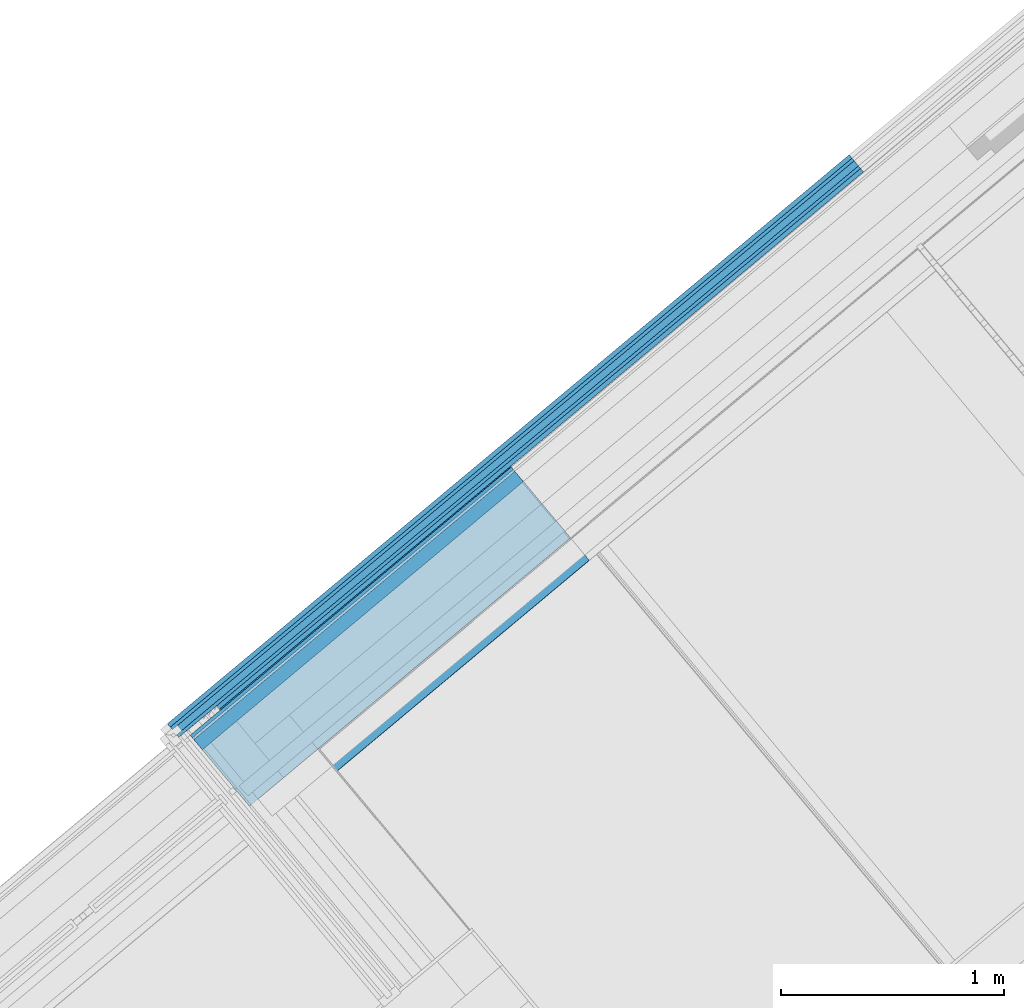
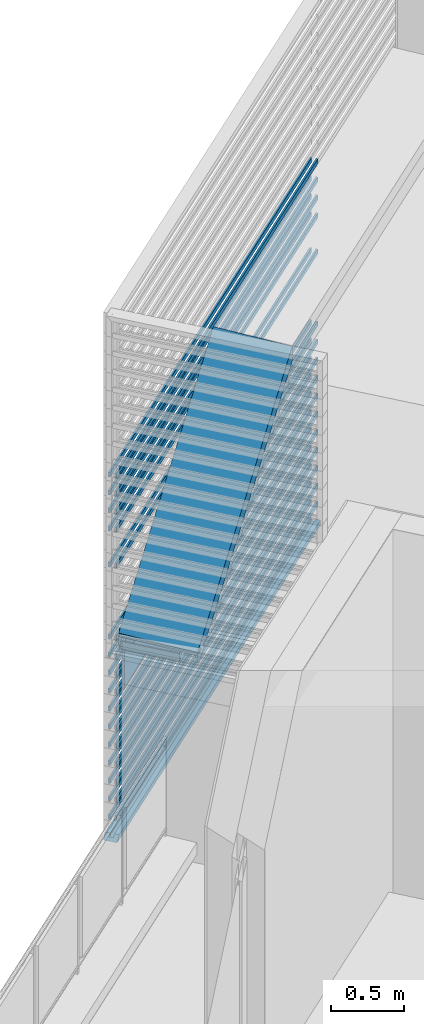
# One storey, part 23 of 50: 22 building element parts, 2 elements without a shape of their own.
"""IFC4 building model written with IfcOpenShell, lengths in metres."""

from ifc_helpers import new_model, entity, si_unit, converted_unit, derived_unit, direction, frame, origin_with_axes, place, context, subcontext, project, spatial, polygons, material, type_object, element, aggregate, save


model = new_model("IFC4")

# Units and contexts
model_context = context("Model", 3, precision=1e-05, world=origin_with_axes(), true_north=direction((0.0, 1.0)))
body_context = subcontext(model_context, "Body", "Model", "MODEL_VIEW")
ifc_project = project(units=[si_unit("LENGTHUNIT", "METRE"), si_unit("AREAUNIT", "SQUARE_METRE"), si_unit("VOLUMEUNIT", "CUBIC_METRE"), converted_unit("PLANEANGLEUNIT", "DEGREE", entity("IfcPlaneAngleMeasure", 0.0174532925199), si_unit("PLANEANGLEUNIT", "RADIAN"), dimensions=[0, 0, 0, 0, 0, 0, 0]), converted_unit("TIMEUNIT", "Year", entity("IfcTimeMeasure", 31556926.0), si_unit("TIMEUNIT", "SECOND"), dimensions=[0, 0, 1, 0, 0, 0, 0]), si_unit("MASSUNIT", "GRAM", prefix="KILO"), si_unit("THERMODYNAMICTEMPERATUREUNIT", "DEGREE_CELSIUS"), si_unit("LUMINOUSINTENSITYUNIT", "LUMEN"), si_unit("ENERGYUNIT", "JOULE", prefix="MEGA"), derived_unit("THERMALCONDUCTANCEUNIT", [(si_unit("POWERUNIT", "WATT"), 1), (si_unit("LENGTHUNIT", "METRE"), -1), (si_unit("THERMODYNAMICTEMPERATUREUNIT", "KELVIN"), -1)]), derived_unit("SPECIFICHEATCAPACITYUNIT", [(si_unit("ENERGYUNIT", "JOULE"), 1), (si_unit("MASSUNIT", "GRAM", prefix="KILO"), -1), (si_unit("THERMODYNAMICTEMPERATUREUNIT", "KELVIN"), -1)]), derived_unit("MASSDENSITYUNIT", [(si_unit("MASSUNIT", "GRAM", prefix="KILO"), 1), (si_unit("VOLUMEUNIT", "CUBIC_METRE"), -1)])], contexts=[model_context])

# Site, building, storey, space
site_placement = place(None, frame((-0.00153261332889, -0.00661245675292, 0.0), z_axis=(0.0, 0.0, 1.0), x_axis=(1.0, 0.0, 0.0)))
site = spatial("IfcSite", under=ifc_project, at=site_placement, Name="Gelände", CompositionType="ELEMENT")
building_placement = place(site_placement, origin_with_axes())
building = spatial("IfcBuilding", under=site, at=building_placement, Name="Gebäude", CompositionType="ELEMENT")
storey_placement = place(building_placement, frame((0.0, 0.0, 8.66), z_axis=(0.0, 0.0, 1.0), x_axis=(1.0, 0.0, 0.0)))
storey = spatial("IfcBuildingStorey", under=building, at=storey_placement, Name="DG2", CompositionType="ELEMENT", Elevation=8.66)
space_1_placement = place(storey_placement, frame((-4.06558748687, 22.1637970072, 0.22), z_axis=(0.0, 0.0, 1.0), x_axis=(-0.767365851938, -0.641209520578, 0.0)))
space_1 = spatial("IfcSpace", under=storey, at=space_1_placement, CompositionType="ELEMENT", PredefinedType="NOTDEFINED")

# Curtain wall, building element parts
curtain_wall_type = type_object("IfcCurtainWallType", Name="Fassadentyp", PredefinedType="NOTDEFINED")
curtain_wall_placement = place(space_1_placement, frame((-1.95298492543, -0.601365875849, 0.1), z_axis=(0.0, 0.0, 1.0), x_axis=(-0.767365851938, 0.641209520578, 0.0)))
curtain_wall = element("IfcCurtainWall", 1, at=curtain_wall_placement, inside=space_1, type_object=curtain_wall_type, Name="Fassade-001", PredefinedType="NOTDEFINED")
ifc_material_1 = material(Name="Blech")
building_element_part_1_placement = place(curtain_wall_placement, origin_with_axes())
building_element_part_1 = element("IfcBuildingElementPart", 2, at=building_element_part_1_placement, material=ifc_material_1, Name="Blech", PredefinedType="NOTDEFINED", context=body_context, shape_type="Tessellation", body=[
    polygons([(1.54752517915, 1.27174910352, 0.0), (1.54752517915, 1.27174910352, 0.02), (1.56994885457, 1.24487571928, 0.02), (1.56994885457, 1.24487571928, -0.02), (1.50588121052, 1.32165681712, -0.02), (1.50588121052, 1.32165681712, 0.02), (1.52830488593, 1.29478343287, 0.02), (1.52830488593, 1.29478343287, 0.0), (-1.52830488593, -1.29478343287, 0.0), (-1.51294866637, -1.28196990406, 0.02), (-1.49052499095, -1.3088432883, 0.02), (-1.52123743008, -1.33447034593, -0.02), (-1.58530507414, -1.25768924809, -0.02), (-1.554592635, -1.23206219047, 0.02), (-1.53216895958, -1.25893557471, 0.02), (-1.54752517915, -1.27174910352, 0.0)], [[[1, 2, 3, 4, 5, 6, 7, 8]], [[1, 9, 10, 2]], [[10, 11, 3, 2]], [[3, 11, 12, 4]], [[4, 12, 13, 5]], [[5, 13, 14, 6]], [[7, 6, 14, 15]], [[15, 16, 8, 7]], [[8, 16, 9, 1]], [[9, 16, 15, 14, 13, 12, 11, 10]]], closed=True),
])
building_element_part_2_placement = place(curtain_wall_placement, origin_with_axes())
building_element_part_2 = element("IfcBuildingElementPart", 3, at=building_element_part_2_placement, material=ifc_material_1, Name="Blech", PredefinedType="NOTDEFINED", context=body_context, shape_type="Tessellation", body=[
    polygons([(-1.51294866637, -1.28196990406, 0.15), (-1.51294866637, -1.28196990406, 0.17), (1.54752517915, 1.27174910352, 0.17), (1.54752517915, 1.27174910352, 0.15), (1.54752517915, 1.27174910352, 0.13), (-1.51294866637, -1.28196990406, 0.13), (-1.50333851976, -1.29348706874, 0.13), (-1.50333851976, -1.29348706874, 0.17), (1.55713532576, 1.26023193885, 0.17), (1.55713532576, 1.26023193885, 0.13)], [[[1, 2, 3, 4, 5, 6]], [[6, 7, 8, 2, 1]], [[3, 2, 8, 9]], [[4, 3, 9, 10, 5]], [[5, 10, 7, 6]], [[10, 9, 8, 7]]], closed=True),
    polygons([(1.52830488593, 1.29478343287, 0.13), (1.51869473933, 1.30630059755, 0.13), (1.51869473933, 1.30630059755, 0.17), (1.52830488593, 1.29478343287, 0.17), (1.52830488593, 1.29478343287, 0.15), (-1.53216895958, -1.25893557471, 0.13), (-1.54177910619, -1.24741841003, 0.13), (-1.54177910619, -1.24741841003, 0.17), (-1.53216895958, -1.25893557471, 0.17), (-1.53216895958, -1.25893557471, 0.15)], [[[1, 2, 3, 4, 5]], [[6, 7, 2, 1]], [[3, 2, 7, 8]], [[9, 4, 3, 8]], [[5, 4, 9, 10, 6, 1]], [[10, 9, 8, 7, 6]]], closed=True),
])
building_element_part_3_placement = place(curtain_wall_placement, origin_with_axes())
building_element_part_3 = element("IfcBuildingElementPart", 4, at=building_element_part_3_placement, material=ifc_material_1, Name="Blech", PredefinedType="NOTDEFINED", context=body_context, shape_type="Tessellation", body=[
    polygons([(-1.51294866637, -1.28196990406, 0.3), (-1.51294866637, -1.28196990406, 0.32), (1.54752517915, 1.27174910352, 0.32), (1.54752517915, 1.27174910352, 0.3), (1.54752517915, 1.27174910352, 0.28), (-1.51294866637, -1.28196990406, 0.28), (-1.50333851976, -1.29348706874, 0.28), (-1.50333851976, -1.29348706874, 0.32), (1.55713532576, 1.26023193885, 0.32), (1.55713532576, 1.26023193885, 0.28)], [[[1, 2, 3, 4, 5, 6]], [[6, 7, 8, 2, 1]], [[3, 2, 8, 9]], [[4, 3, 9, 10, 5]], [[5, 10, 7, 6]], [[10, 9, 8, 7]]], closed=True),
    polygons([(1.52830488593, 1.29478343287, 0.28), (1.51869473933, 1.30630059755, 0.28), (1.51869473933, 1.30630059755, 0.32), (1.52830488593, 1.29478343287, 0.32), (1.52830488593, 1.29478343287, 0.3), (-1.53216895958, -1.25893557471, 0.28), (-1.54177910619, -1.24741841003, 0.28), (-1.54177910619, -1.24741841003, 0.32), (-1.53216895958, -1.25893557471, 0.32), (-1.53216895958, -1.25893557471, 0.3)], [[[1, 2, 3, 4, 5]], [[6, 7, 2, 1]], [[3, 2, 7, 8]], [[9, 4, 3, 8]], [[5, 4, 9, 10, 6, 1]], [[10, 9, 8, 7, 6]]], closed=True),
])
building_element_part_4_placement = place(curtain_wall_placement, origin_with_axes())
building_element_part_4 = element("IfcBuildingElementPart", 5, at=building_element_part_4_placement, material=ifc_material_1, Name="Blech", PredefinedType="NOTDEFINED", context=body_context, shape_type="Tessellation", body=[
    polygons([(-1.51294866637, -1.28196990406, 0.45), (-1.51294866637, -1.28196990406, 0.47), (1.54752517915, 1.27174910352, 0.47), (1.54752517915, 1.27174910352, 0.45), (1.54752517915, 1.27174910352, 0.43), (-1.51294866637, -1.28196990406, 0.43), (-1.50333851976, -1.29348706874, 0.43), (-1.50333851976, -1.29348706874, 0.47), (1.55713532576, 1.26023193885, 0.47), (1.55713532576, 1.26023193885, 0.43)], [[[1, 2, 3, 4, 5, 6]], [[6, 7, 8, 2, 1]], [[3, 2, 8, 9]], [[4, 3, 9, 10, 5]], [[5, 10, 7, 6]], [[10, 9, 8, 7]]], closed=True),
    polygons([(1.52830488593, 1.29478343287, 0.43), (1.51869473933, 1.30630059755, 0.43), (1.51869473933, 1.30630059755, 0.47), (1.52830488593, 1.29478343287, 0.47), (1.52830488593, 1.29478343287, 0.45), (-1.53216895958, -1.25893557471, 0.43), (-1.54177910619, -1.24741841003, 0.43), (-1.54177910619, -1.24741841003, 0.47), (-1.53216895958, -1.25893557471, 0.47), (-1.53216895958, -1.25893557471, 0.45)], [[[1, 2, 3, 4, 5]], [[6, 7, 2, 1]], [[3, 2, 7, 8]], [[9, 4, 3, 8]], [[5, 4, 9, 10, 6, 1]], [[10, 9, 8, 7, 6]]], closed=True),
])
building_element_part_5_placement = place(curtain_wall_placement, origin_with_axes())
building_element_part_5 = element("IfcBuildingElementPart", 6, at=building_element_part_5_placement, material=ifc_material_1, Name="Blech", PredefinedType="NOTDEFINED", context=body_context, shape_type="Tessellation", body=[
    polygons([(-1.51294866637, -1.28196990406, 0.6), (-1.51294866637, -1.28196990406, 0.62), (1.54752517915, 1.27174910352, 0.62), (1.54752517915, 1.27174910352, 0.6), (1.54752517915, 1.27174910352, 0.58), (-1.51294866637, -1.28196990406, 0.58), (-1.50333851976, -1.29348706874, 0.58), (-1.50333851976, -1.29348706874, 0.62), (1.55713532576, 1.26023193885, 0.62), (1.55713532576, 1.26023193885, 0.58)], [[[1, 2, 3, 4, 5, 6]], [[6, 7, 8, 2, 1]], [[3, 2, 8, 9]], [[4, 3, 9, 10, 5]], [[5, 10, 7, 6]], [[10, 9, 8, 7]]], closed=True),
    polygons([(1.52830488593, 1.29478343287, 0.58), (1.51869473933, 1.30630059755, 0.58), (1.51869473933, 1.30630059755, 0.62), (1.52830488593, 1.29478343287, 0.62), (1.52830488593, 1.29478343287, 0.6), (-1.53216895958, -1.25893557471, 0.58), (-1.54177910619, -1.24741841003, 0.58), (-1.54177910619, -1.24741841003, 0.62), (-1.53216895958, -1.25893557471, 0.62), (-1.53216895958, -1.25893557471, 0.6)], [[[1, 2, 3, 4, 5]], [[6, 7, 2, 1]], [[3, 2, 7, 8]], [[9, 4, 3, 8]], [[5, 4, 9, 10, 6, 1]], [[10, 9, 8, 7, 6]]], closed=True),
])
building_element_part_6_placement = place(curtain_wall_placement, origin_with_axes())
building_element_part_6 = element("IfcBuildingElementPart", 7, at=building_element_part_6_placement, material=ifc_material_1, Name="Blech", PredefinedType="NOTDEFINED", context=body_context, shape_type="Tessellation", body=[
    polygons([(-1.51294866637, -1.28196990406, 3.0), (-1.51294866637, -1.28196990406, 3.02), (1.54752517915, 1.27174910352, 3.02), (1.54752517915, 1.27174910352, 3.0), (1.54752517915, 1.27174910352, 2.98), (-1.51294866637, -1.28196990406, 2.98), (-1.50333851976, -1.29348706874, 2.98), (-1.50333851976, -1.29348706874, 3.02), (1.55713532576, 1.26023193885, 3.02), (1.55713532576, 1.26023193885, 2.98)], [[[1, 2, 3, 4, 5, 6]], [[6, 7, 8, 2, 1]], [[3, 2, 8, 9]], [[4, 3, 9, 10, 5]], [[5, 10, 7, 6]], [[10, 9, 8, 7]]], closed=True),
    polygons([(1.52830488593, 1.29478343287, 2.98), (1.51869473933, 1.30630059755, 2.98), (1.51869473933, 1.30630059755, 3.02), (1.52830488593, 1.29478343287, 3.02), (1.52830488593, 1.29478343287, 3.0), (-1.53216895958, -1.25893557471, 2.98), (-1.54177910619, -1.24741841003, 2.98), (-1.54177910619, -1.24741841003, 3.02), (-1.53216895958, -1.25893557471, 3.02), (-1.53216895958, -1.25893557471, 3.0)], [[[1, 2, 3, 4, 5]], [[6, 7, 2, 1]], [[3, 2, 7, 8]], [[9, 4, 3, 8]], [[5, 4, 9, 10, 6, 1]], [[10, 9, 8, 7, 6]]], closed=True),
])
building_element_part_7_placement = place(curtain_wall_placement, origin_with_axes())
building_element_part_7 = element("IfcBuildingElementPart", 8, at=building_element_part_7_placement, material=ifc_material_1, Name="Blech", PredefinedType="NOTDEFINED", context=body_context, shape_type="Tessellation", body=[
    polygons([(-1.51294866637, -1.28196990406, 2.85), (-1.51294866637, -1.28196990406, 2.87), (1.54752517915, 1.27174910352, 2.87), (1.54752517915, 1.27174910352, 2.85), (1.54752517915, 1.27174910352, 2.83), (-1.51294866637, -1.28196990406, 2.83), (-1.50333851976, -1.29348706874, 2.83), (-1.50333851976, -1.29348706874, 2.87), (1.55713532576, 1.26023193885, 2.87), (1.55713532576, 1.26023193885, 2.83)], [[[1, 2, 3, 4, 5, 6]], [[6, 7, 8, 2, 1]], [[3, 2, 8, 9]], [[4, 3, 9, 10, 5]], [[5, 10, 7, 6]], [[10, 9, 8, 7]]], closed=True),
    polygons([(1.52830488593, 1.29478343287, 2.83), (1.51869473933, 1.30630059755, 2.83), (1.51869473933, 1.30630059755, 2.87), (1.52830488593, 1.29478343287, 2.87), (1.52830488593, 1.29478343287, 2.85), (-1.53216895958, -1.25893557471, 2.83), (-1.54177910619, -1.24741841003, 2.83), (-1.54177910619, -1.24741841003, 2.87), (-1.53216895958, -1.25893557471, 2.87), (-1.53216895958, -1.25893557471, 2.85)], [[[1, 2, 3, 4, 5]], [[6, 7, 2, 1]], [[3, 2, 7, 8]], [[9, 4, 3, 8]], [[5, 4, 9, 10, 6, 1]], [[10, 9, 8, 7, 6]]], closed=True),
])
building_element_part_8_placement = place(curtain_wall_placement, origin_with_axes())
building_element_part_8 = element("IfcBuildingElementPart", 9, at=building_element_part_8_placement, material=ifc_material_1, Name="Blech", PredefinedType="NOTDEFINED", context=body_context, shape_type="Tessellation", body=[
    polygons([(-1.51294866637, -1.28196990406, 0.75), (-1.51294866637, -1.28196990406, 0.77), (1.54752517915, 1.27174910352, 0.77), (1.54752517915, 1.27174910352, 0.75), (1.54752517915, 1.27174910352, 0.73), (-1.51294866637, -1.28196990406, 0.73), (-1.50333851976, -1.29348706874, 0.73), (-1.50333851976, -1.29348706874, 0.77), (1.55713532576, 1.26023193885, 0.77), (1.55713532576, 1.26023193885, 0.73)], [[[1, 2, 3, 4, 5, 6]], [[6, 7, 8, 2, 1]], [[3, 2, 8, 9]], [[4, 3, 9, 10, 5]], [[5, 10, 7, 6]], [[10, 9, 8, 7]]], closed=True),
    polygons([(1.52830488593, 1.29478343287, 0.73), (1.51869473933, 1.30630059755, 0.73), (1.51869473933, 1.30630059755, 0.77), (1.52830488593, 1.29478343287, 0.77), (1.52830488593, 1.29478343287, 0.75), (-1.53216895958, -1.25893557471, 0.73), (-1.54177910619, -1.24741841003, 0.73), (-1.54177910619, -1.24741841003, 0.77), (-1.53216895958, -1.25893557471, 0.77), (-1.53216895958, -1.25893557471, 0.75)], [[[1, 2, 3, 4, 5]], [[6, 7, 2, 1]], [[3, 2, 7, 8]], [[9, 4, 3, 8]], [[5, 4, 9, 10, 6, 1]], [[10, 9, 8, 7, 6]]], closed=True),
])
building_element_part_9_placement = place(curtain_wall_placement, origin_with_axes())
building_element_part_9 = element("IfcBuildingElementPart", 10, at=building_element_part_9_placement, material=ifc_material_1, Name="Blech", PredefinedType="NOTDEFINED", context=body_context, shape_type="Tessellation", body=[
    polygons([(-1.51294866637, -1.28196990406, 2.25), (-1.51294866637, -1.28196990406, 2.27), (1.54752517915, 1.27174910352, 2.27), (1.54752517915, 1.27174910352, 2.25), (1.54752517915, 1.27174910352, 2.23), (-1.51294866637, -1.28196990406, 2.23), (-1.50333851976, -1.29348706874, 2.23), (-1.50333851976, -1.29348706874, 2.27), (1.55713532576, 1.26023193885, 2.27), (1.55713532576, 1.26023193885, 2.23)], [[[1, 2, 3, 4, 5, 6]], [[6, 7, 8, 2, 1]], [[3, 2, 8, 9]], [[4, 3, 9, 10, 5]], [[5, 10, 7, 6]], [[10, 9, 8, 7]]], closed=True),
    polygons([(1.52830488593, 1.29478343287, 2.23), (1.51869473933, 1.30630059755, 2.23), (1.51869473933, 1.30630059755, 2.27), (1.52830488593, 1.29478343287, 2.27), (1.52830488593, 1.29478343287, 2.25), (-1.53216895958, -1.25893557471, 2.23), (-1.54177910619, -1.24741841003, 2.23), (-1.54177910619, -1.24741841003, 2.27), (-1.53216895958, -1.25893557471, 2.27), (-1.53216895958, -1.25893557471, 2.25)], [[[1, 2, 3, 4, 5]], [[6, 7, 2, 1]], [[3, 2, 7, 8]], [[9, 4, 3, 8]], [[5, 4, 9, 10, 6, 1]], [[10, 9, 8, 7, 6]]], closed=True),
])
building_element_part_10_placement = place(curtain_wall_placement, origin_with_axes())
building_element_part_10 = element("IfcBuildingElementPart", 11, at=building_element_part_10_placement, material=ifc_material_1, Name="Blech", PredefinedType="NOTDEFINED", context=body_context, shape_type="Tessellation", body=[
    polygons([(-1.51294866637, -1.28196990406, 0.9), (-1.51294866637, -1.28196990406, 0.92), (1.54752517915, 1.27174910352, 0.92), (1.54752517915, 1.27174910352, 0.9), (1.54752517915, 1.27174910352, 0.88), (-1.51294866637, -1.28196990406, 0.88), (-1.50333851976, -1.29348706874, 0.88), (-1.50333851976, -1.29348706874, 0.92), (1.55713532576, 1.26023193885, 0.92), (1.55713532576, 1.26023193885, 0.88)], [[[1, 2, 3, 4, 5, 6]], [[6, 7, 8, 2, 1]], [[3, 2, 8, 9]], [[4, 3, 9, 10, 5]], [[5, 10, 7, 6]], [[10, 9, 8, 7]]], closed=True),
    polygons([(1.52830488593, 1.29478343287, 0.88), (1.51869473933, 1.30630059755, 0.88), (1.51869473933, 1.30630059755, 0.92), (1.52830488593, 1.29478343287, 0.92), (1.52830488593, 1.29478343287, 0.9), (-1.53216895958, -1.25893557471, 0.88), (-1.54177910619, -1.24741841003, 0.88), (-1.54177910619, -1.24741841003, 0.92), (-1.53216895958, -1.25893557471, 0.92), (-1.53216895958, -1.25893557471, 0.9)], [[[1, 2, 3, 4, 5]], [[6, 7, 2, 1]], [[3, 2, 7, 8]], [[9, 4, 3, 8]], [[5, 4, 9, 10, 6, 1]], [[10, 9, 8, 7, 6]]], closed=True),
])
building_element_part_11_placement = place(curtain_wall_placement, origin_with_axes())
building_element_part_11 = element("IfcBuildingElementPart", 12, at=building_element_part_11_placement, material=ifc_material_1, Name="Blech", PredefinedType="NOTDEFINED", context=body_context, shape_type="Tessellation", body=[
    polygons([(-1.51294866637, -1.28196990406, 1.05), (-1.51294866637, -1.28196990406, 1.07), (1.54752517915, 1.27174910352, 1.07), (1.54752517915, 1.27174910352, 1.05), (1.54752517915, 1.27174910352, 1.03), (-1.51294866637, -1.28196990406, 1.03), (-1.50333851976, -1.29348706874, 1.03), (-1.50333851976, -1.29348706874, 1.07), (1.55713532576, 1.26023193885, 1.07), (1.55713532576, 1.26023193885, 1.03)], [[[1, 2, 3, 4, 5, 6]], [[6, 7, 8, 2, 1]], [[3, 2, 8, 9]], [[4, 3, 9, 10, 5]], [[5, 10, 7, 6]], [[10, 9, 8, 7]]], closed=True),
    polygons([(1.52830488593, 1.29478343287, 1.03), (1.51869473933, 1.30630059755, 1.03), (1.51869473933, 1.30630059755, 1.07), (1.52830488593, 1.29478343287, 1.07), (1.52830488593, 1.29478343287, 1.05), (-1.53216895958, -1.25893557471, 1.03), (-1.54177910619, -1.24741841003, 1.03), (-1.54177910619, -1.24741841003, 1.07), (-1.53216895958, -1.25893557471, 1.07), (-1.53216895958, -1.25893557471, 1.05)], [[[1, 2, 3, 4, 5]], [[6, 7, 2, 1]], [[3, 2, 7, 8]], [[9, 4, 3, 8]], [[5, 4, 9, 10, 6, 1]], [[10, 9, 8, 7, 6]]], closed=True),
])
building_element_part_12_placement = place(curtain_wall_placement, origin_with_axes())
building_element_part_12 = element("IfcBuildingElementPart", 13, at=building_element_part_12_placement, material=ifc_material_1, Name="Blech", PredefinedType="NOTDEFINED", context=body_context, shape_type="Tessellation", body=[
    polygons([(-1.51294866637, -1.28196990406, 1.2), (-1.51294866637, -1.28196990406, 1.22), (1.54752517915, 1.27174910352, 1.22), (1.54752517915, 1.27174910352, 1.2), (1.54752517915, 1.27174910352, 1.18), (-1.51294866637, -1.28196990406, 1.18), (-1.50333851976, -1.29348706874, 1.18), (-1.50333851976, -1.29348706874, 1.22), (1.55713532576, 1.26023193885, 1.22), (1.55713532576, 1.26023193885, 1.18)], [[[1, 2, 3, 4, 5, 6]], [[6, 7, 8, 2, 1]], [[3, 2, 8, 9]], [[4, 3, 9, 10, 5]], [[5, 10, 7, 6]], [[10, 9, 8, 7]]], closed=True),
    polygons([(1.52830488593, 1.29478343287, 1.18), (1.51869473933, 1.30630059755, 1.18), (1.51869473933, 1.30630059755, 1.22), (1.52830488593, 1.29478343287, 1.22), (1.52830488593, 1.29478343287, 1.2), (-1.53216895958, -1.25893557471, 1.18), (-1.54177910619, -1.24741841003, 1.18), (-1.54177910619, -1.24741841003, 1.22), (-1.53216895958, -1.25893557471, 1.22), (-1.53216895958, -1.25893557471, 1.2)], [[[1, 2, 3, 4, 5]], [[6, 7, 2, 1]], [[3, 2, 7, 8]], [[9, 4, 3, 8]], [[5, 4, 9, 10, 6, 1]], [[10, 9, 8, 7, 6]]], closed=True),
])
building_element_part_13_placement = place(curtain_wall_placement, origin_with_axes())
building_element_part_13 = element("IfcBuildingElementPart", 14, at=building_element_part_13_placement, material=ifc_material_1, Name="Blech", PredefinedType="NOTDEFINED", context=body_context, shape_type="Tessellation", body=[
    polygons([(-1.51294866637, -1.28196990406, 2.7), (-1.51294866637, -1.28196990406, 2.72), (1.54752517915, 1.27174910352, 2.72), (1.54752517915, 1.27174910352, 2.7), (1.54752517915, 1.27174910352, 2.68), (-1.51294866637, -1.28196990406, 2.68), (-1.50333851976, -1.29348706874, 2.68), (-1.50333851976, -1.29348706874, 2.72), (1.55713532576, 1.26023193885, 2.72), (1.55713532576, 1.26023193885, 2.68)], [[[1, 2, 3, 4, 5, 6]], [[6, 7, 8, 2, 1]], [[3, 2, 8, 9]], [[4, 3, 9, 10, 5]], [[5, 10, 7, 6]], [[10, 9, 8, 7]]], closed=True),
    polygons([(1.52830488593, 1.29478343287, 2.68), (1.51869473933, 1.30630059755, 2.68), (1.51869473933, 1.30630059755, 2.72), (1.52830488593, 1.29478343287, 2.72), (1.52830488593, 1.29478343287, 2.7), (-1.53216895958, -1.25893557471, 2.68), (-1.54177910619, -1.24741841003, 2.68), (-1.54177910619, -1.24741841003, 2.72), (-1.53216895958, -1.25893557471, 2.72), (-1.53216895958, -1.25893557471, 2.7)], [[[1, 2, 3, 4, 5]], [[6, 7, 2, 1]], [[3, 2, 7, 8]], [[9, 4, 3, 8]], [[5, 4, 9, 10, 6, 1]], [[10, 9, 8, 7, 6]]], closed=True),
])
building_element_part_14_placement = place(curtain_wall_placement, origin_with_axes())
building_element_part_14 = element("IfcBuildingElementPart", 15, at=building_element_part_14_placement, material=ifc_material_1, Name="Blech", PredefinedType="NOTDEFINED", context=body_context, shape_type="Tessellation", body=[
    polygons([(-1.51294866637, -1.28196990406, 1.35), (-1.51294866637, -1.28196990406, 1.37), (1.54752517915, 1.27174910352, 1.37), (1.54752517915, 1.27174910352, 1.35), (1.54752517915, 1.27174910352, 1.33), (-1.51294866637, -1.28196990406, 1.33), (-1.50333851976, -1.29348706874, 1.33), (-1.50333851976, -1.29348706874, 1.37), (1.55713532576, 1.26023193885, 1.37), (1.55713532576, 1.26023193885, 1.33)], [[[1, 2, 3, 4, 5, 6]], [[6, 7, 8, 2, 1]], [[3, 2, 8, 9]], [[4, 3, 9, 10, 5]], [[5, 10, 7, 6]], [[10, 9, 8, 7]]], closed=True),
    polygons([(1.52830488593, 1.29478343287, 1.33), (1.51869473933, 1.30630059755, 1.33), (1.51869473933, 1.30630059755, 1.37), (1.52830488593, 1.29478343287, 1.37), (1.52830488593, 1.29478343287, 1.35), (-1.53216895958, -1.25893557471, 1.33), (-1.54177910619, -1.24741841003, 1.33), (-1.54177910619, -1.24741841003, 1.37), (-1.53216895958, -1.25893557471, 1.37), (-1.53216895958, -1.25893557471, 1.35)], [[[1, 2, 3, 4, 5]], [[6, 7, 2, 1]], [[3, 2, 7, 8]], [[9, 4, 3, 8]], [[5, 4, 9, 10, 6, 1]], [[10, 9, 8, 7, 6]]], closed=True),
])
building_element_part_15_placement = place(curtain_wall_placement, origin_with_axes())
building_element_part_15 = element("IfcBuildingElementPart", 16, at=building_element_part_15_placement, material=ifc_material_1, Name="Blech", PredefinedType="NOTDEFINED", context=body_context, shape_type="Tessellation", body=[
    polygons([(-1.51294866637, -1.28196990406, 1.5), (-1.51294866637, -1.28196990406, 1.52), (1.54752517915, 1.27174910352, 1.52), (1.54752517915, 1.27174910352, 1.5), (1.54752517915, 1.27174910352, 1.48), (-1.51294866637, -1.28196990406, 1.48), (-1.50333851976, -1.29348706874, 1.48), (-1.50333851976, -1.29348706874, 1.52), (1.55713532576, 1.26023193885, 1.52), (1.55713532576, 1.26023193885, 1.48)], [[[1, 2, 3, 4, 5, 6]], [[6, 7, 8, 2, 1]], [[3, 2, 8, 9]], [[4, 3, 9, 10, 5]], [[5, 10, 7, 6]], [[10, 9, 8, 7]]], closed=True),
    polygons([(1.52830488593, 1.29478343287, 1.48), (1.51869473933, 1.30630059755, 1.48), (1.51869473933, 1.30630059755, 1.52), (1.52830488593, 1.29478343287, 1.52), (1.52830488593, 1.29478343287, 1.5), (-1.53216895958, -1.25893557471, 1.48), (-1.54177910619, -1.24741841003, 1.48), (-1.54177910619, -1.24741841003, 1.52), (-1.53216895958, -1.25893557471, 1.52), (-1.53216895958, -1.25893557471, 1.5)], [[[1, 2, 3, 4, 5]], [[6, 7, 2, 1]], [[3, 2, 7, 8]], [[9, 4, 3, 8]], [[5, 4, 9, 10, 6, 1]], [[10, 9, 8, 7, 6]]], closed=True),
])
building_element_part_16_placement = place(curtain_wall_placement, origin_with_axes())
building_element_part_16 = element("IfcBuildingElementPart", 17, at=building_element_part_16_placement, material=ifc_material_1, Name="Blech", PredefinedType="NOTDEFINED", context=body_context, shape_type="Tessellation", body=[
    polygons([(-1.51294866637, -1.28196990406, 1.65), (-1.51294866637, -1.28196990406, 1.67), (1.54752517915, 1.27174910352, 1.67), (1.54752517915, 1.27174910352, 1.65), (1.54752517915, 1.27174910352, 1.63), (-1.51294866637, -1.28196990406, 1.63), (-1.50333851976, -1.29348706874, 1.63), (-1.50333851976, -1.29348706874, 1.67), (1.55713532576, 1.26023193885, 1.67), (1.55713532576, 1.26023193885, 1.63)], [[[1, 2, 3, 4, 5, 6]], [[6, 7, 8, 2, 1]], [[3, 2, 8, 9]], [[4, 3, 9, 10, 5]], [[5, 10, 7, 6]], [[10, 9, 8, 7]]], closed=True),
    polygons([(1.52830488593, 1.29478343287, 1.63), (1.51869473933, 1.30630059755, 1.63), (1.51869473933, 1.30630059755, 1.67), (1.52830488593, 1.29478343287, 1.67), (1.52830488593, 1.29478343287, 1.65), (-1.53216895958, -1.25893557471, 1.63), (-1.54177910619, -1.24741841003, 1.63), (-1.54177910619, -1.24741841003, 1.67), (-1.53216895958, -1.25893557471, 1.67), (-1.53216895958, -1.25893557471, 1.65)], [[[1, 2, 3, 4, 5]], [[6, 7, 2, 1]], [[3, 2, 7, 8]], [[9, 4, 3, 8]], [[5, 4, 9, 10, 6, 1]], [[10, 9, 8, 7, 6]]], closed=True),
])
building_element_part_17_placement = place(curtain_wall_placement, origin_with_axes())
building_element_part_17 = element("IfcBuildingElementPart", 18, at=building_element_part_17_placement, material=ifc_material_1, Name="Blech", PredefinedType="NOTDEFINED", context=body_context, shape_type="Tessellation", body=[
    polygons([(-1.51294866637, -1.28196990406, 2.55), (-1.51294866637, -1.28196990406, 2.57), (1.54752517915, 1.27174910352, 2.57), (1.54752517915, 1.27174910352, 2.55), (1.54752517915, 1.27174910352, 2.53), (-1.51294866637, -1.28196990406, 2.53), (-1.50333851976, -1.29348706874, 2.53), (-1.50333851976, -1.29348706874, 2.57), (1.55713532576, 1.26023193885, 2.57), (1.55713532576, 1.26023193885, 2.53)], [[[1, 2, 3, 4, 5, 6]], [[6, 7, 8, 2, 1]], [[3, 2, 8, 9]], [[4, 3, 9, 10, 5]], [[5, 10, 7, 6]], [[10, 9, 8, 7]]], closed=True),
    polygons([(1.52830488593, 1.29478343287, 2.53), (1.51869473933, 1.30630059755, 2.53), (1.51869473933, 1.30630059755, 2.57), (1.52830488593, 1.29478343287, 2.57), (1.52830488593, 1.29478343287, 2.55), (-1.53216895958, -1.25893557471, 2.53), (-1.54177910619, -1.24741841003, 2.53), (-1.54177910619, -1.24741841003, 2.57), (-1.53216895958, -1.25893557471, 2.57), (-1.53216895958, -1.25893557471, 2.55)], [[[1, 2, 3, 4, 5]], [[6, 7, 2, 1]], [[3, 2, 7, 8]], [[9, 4, 3, 8]], [[5, 4, 9, 10, 6, 1]], [[10, 9, 8, 7, 6]]], closed=True),
])
aggregate(curtain_wall, [building_element_part_1, building_element_part_2, building_element_part_3, building_element_part_4, building_element_part_5, building_element_part_6, building_element_part_7, building_element_part_8, building_element_part_9, building_element_part_10, building_element_part_11, building_element_part_12, building_element_part_13, building_element_part_14, building_element_part_15, building_element_part_16, building_element_part_17])

# Space
space_2_placement = place(storey_placement, frame((0.280300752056, 22.6307267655, 0.22), z_axis=(0.0, 0.0, 1.0), x_axis=(-0.641244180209, 0.767336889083, 0.0)))
space_2 = spatial("IfcSpace", under=storey, at=space_2_placement, CompositionType="ELEMENT", PredefinedType="NOTDEFINED")

# Wall, building element parts
wall_type = type_object("IfcWallType", Name="Bauteil - Attika 574 x 1710", PredefinedType="NOTDEFINED")
wall_placement = place(space_2_placement, frame((2.76053433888, 3.61916135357, 1.02009396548), z_axis=(0.0, 0.0, 1.0), x_axis=(-0.999999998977, 4.52224951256e-05, 0.0)))
wall = element("IfcWall", 19, at=wall_placement, inside=space_2, type_object=wall_type, Name="Träger-001", PredefinedType="NOTDEFINED")
ifc_material_2 = material(Name="Vollholz")
building_element_part_18_placement = place(wall_placement, origin_with_axes())
building_element_part_18 = element("IfcBuildingElementPart", 20, at=building_element_part_18_placement, material=ifc_material_2, Name="Vollholz", PredefinedType="NOTDEFINED", context=body_context, shape_type="Tessellation", body=[
    polygons([(-0.190124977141, 1.87834618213, 1.99886592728), (-0.130124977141, 1.87834618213, 1.99886592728), (-0.130124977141, 0.0, 0.683633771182), (-0.190124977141, 0.0, 0.683633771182), (-0.189984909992, 1.87834618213, 2.03073576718), (-0.130124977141, 1.87834618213, 2.02818391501), (-0.130124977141, 0.0, 0.712951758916), (-0.189984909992, 0.0, 0.71550361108)], [[[1, 2, 3, 4]], [[5, 6, 2, 1]], [[2, 6, 7, 3]], [[3, 7, 8, 4]], [[5, 1, 4, 8]], [[6, 5, 8, 7]]], closed=True),
])
ifc_material_3 = material(Name="Stahl")
building_element_part_19_placement = place(wall_placement, origin_with_axes())
building_element_part_19 = element("IfcBuildingElementPart", 21, at=building_element_part_19_placement, material=ifc_material_3, Name="Stahl", PredefinedType="NOTDEFINED", context=body_context, shape_type="Tessellation", body=[
    polygons([(0.330698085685, 0.00989990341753, 0.702991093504), (0.330698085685, 0.00987504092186, 0.698357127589), (0.330698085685, 0.0698750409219, 0.698357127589), (0.330698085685, 0.0698750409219, 0.719423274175), (0.330698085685, 0.0316718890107, 0.718236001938), (0.330698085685, 1.87834618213, 2.0112912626), (0.330698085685, 1.87834618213, 1.91464039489), (0.330698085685, 0.176114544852, 0.722724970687), (0.330698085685, 0.121073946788, 0.721014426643), (0.330698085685, 0.120851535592, 0.698357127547), (0.330698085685, 0.141313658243, 0.698357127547), (0.330698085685, 0.0556247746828, 0.638357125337), (0.330698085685, 3.46206086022e-09, 0.638357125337), (0.330698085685, 0.0, 0.696059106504), (0.330698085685, 0.00997807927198, 0.71756180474), (0.332051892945, 0.00997807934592, 0.71756180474), (0.332051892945, 0.00990170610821, 0.703327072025), (0.332051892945, 0.00987504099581, 0.698357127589), (0.332051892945, 0.0698750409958, 0.698357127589), (0.332051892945, 0.0698750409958, 0.719423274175), (0.332051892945, 0.0311716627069, 0.718220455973), (0.330698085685, 0.0, 0.717739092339), (0.330698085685, 1.87834618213, 2.03297124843), (-0.231373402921, 1.87834618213, 1.94786172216), (-0.240542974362, 1.87834618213, 1.93666775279), (-0.241500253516, 1.87834618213, 1.93783638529), (-0.241500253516, 1.87834618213, 2.05825851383), (-0.241500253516, 1.87834618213, 2.05991228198), (0.332051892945, 1.87834618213, 2.03456517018), (0.332051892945, 1.87834618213, 2.01162597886), (0.332051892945, 1.87834618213, 1.91298770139), (0.331094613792, 1.87834618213, 1.91181907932), (0.321878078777, 1.87834618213, 1.92307039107), (0.32288233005, 1.87834618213, 1.92418168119), (-0.102258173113, 1.87834618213, 2.0521124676), (-0.240152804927, 1.87834618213, 2.05819892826), (-0.240146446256, 1.87834618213, 1.93948906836), (-0.232283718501, 1.87834618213, 1.9490876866), (0.32288233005, 0.161855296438, 0.722281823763), (0.321878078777, 0.163516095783, 0.722333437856), (0.331094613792, 0.180330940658, 0.722856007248), (0.332051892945, 0.178584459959, 0.722801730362), (0.332051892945, 0.121073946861, 0.721014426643), (0.332051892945, 0.120851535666, 0.698357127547), (0.332051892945, 0.143673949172, 0.698357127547), (0.331094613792, 0.145342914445, 0.698357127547), (0.321878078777, 0.129274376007, 0.698357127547), (0.32288233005, 0.127687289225, 0.698357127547), (0.32288233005, 0.041998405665, 0.638357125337), (0.321878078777, 0.0435854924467, 0.638357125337), (0.331094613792, 0.0596540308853, 0.638357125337), (0.332051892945, 0.0579850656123, 0.638357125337), (0.332051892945, 3.61473873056e-09, 0.638357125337), (0.332051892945, 0.0, 0.696393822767), (0.332051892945, 0.0, 0.719333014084), (-0.241500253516, 0.0, 0.74468012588), (-0.241500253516, 0.0, 0.743026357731), (-0.241500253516, 0.0, 0.622604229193), (-0.240542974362, 0.0, 0.621435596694), (-0.231373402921, 0.0, 0.632629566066), (-0.232283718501, 0.0, 0.633855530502), (-0.240146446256, 0.0, 0.62425691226), (-0.240152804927, 0.0, 0.742966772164), (-0.102258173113, 0.0, 0.736880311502)], [[[1, 2, 3, 4, 5, 6, 7, 8, 9, 10, 11, 12, 13, 14]], [[15, 16, 17, 18, 2, 1]], [[2, 18, 19, 3]], [[3, 19, 20, 4]], [[4, 20, 21, 16, 15, 5]], [[5, 15, 1, 14, 22, 23, 6]], [[24, 25, 26, 27, 28, 29, 30, 31, 32, 33, 34, 7, 6, 23, 35, 36, 37, 38]], [[34, 39, 8, 7]], [[39, 40, 41, 42, 43, 9, 8]], [[9, 43, 44, 10]], [[44, 45, 46, 47, 48, 11, 10]], [[12, 11, 48, 49]], [[49, 50, 51, 52, 53, 13, 12]], [[14, 13, 53, 54, 55, 56, 57, 58, 59, 60, 61, 62, 63, 64, 22]], [[17, 16, 21, 30, 29, 55, 54]], [[19, 18, 17, 54, 53, 52, 45, 44, 43, 42, 31, 30, 21, 20]], [[64, 35, 23, 22]], [[59, 25, 24, 60]], [[58, 26, 25, 59]], [[57, 27, 26, 58]], [[56, 28, 27, 57]], [[55, 29, 28, 56]], [[31, 42, 41, 32]], [[32, 41, 40, 33]], [[33, 40, 39, 34]], [[63, 36, 35, 64]], [[62, 37, 36, 63]], [[61, 38, 37, 62]], [[60, 24, 38, 61]], [[51, 46, 45, 52]], [[50, 47, 46, 51]], [[49, 48, 47, 50]]], closed=True),
])
ifc_material_4 = material(Name="Zementputz")
building_element_part_20_placement = place(wall_placement, origin_with_axes())
building_element_part_20 = element("IfcBuildingElementPart", 22, at=building_element_part_20_placement, material=ifc_material_4, Name="Zementputz", PredefinedType="NOTDEFINED", context=body_context, shape_type="Tessellation", body=[
    polygons([(-0.199999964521, 0.0, 0.288294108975), (-0.199999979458, 1.87834618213, 0.382515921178), (-0.19999996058, 1.87834618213, 1.9256194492), (-0.19999996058, 0.0, 0.610387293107), (-0.214999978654, 0.0, 0.288294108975), (-0.214999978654, 1.87834618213, 0.382515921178), (-0.214999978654, 1.87834618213, 1.9256194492), (-0.214999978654, 0.0, 0.610387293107)], [[[1, 2, 3, 4]], [[5, 6, 2, 1]], [[2, 6, 7, 3]], [[4, 3, 7, 8]], [[1, 4, 8, 5]], [[8, 7, 6, 5]]], closed=True),
])
ifc_material_5 = material(Name="Brettschichtholz")
building_element_part_21_placement = place(wall_placement, origin_with_axes())
building_element_part_21 = element("IfcBuildingElementPart", 23, at=building_element_part_21_placement, material=ifc_material_5, Name="Brettschichtholz", PredefinedType="NOTDEFINED", context=body_context, shape_type="Tessellation", body=[
    polygons([(-0.214999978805, 0.0, 0.683633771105), (-0.214999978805, 1.87834618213, 1.9988659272), (-0.214999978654, 1.87834618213, 1.9256194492), (-0.214999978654, 0.0, 0.610387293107), (0.2, 0.0, 0.683633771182), (0.2, 1.87834618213, 1.99886592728), (0.2, 1.87834618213, 1.92561945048), (0.2, 0.0, 0.610387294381)], [[[1, 2, 3, 4]], [[5, 6, 2, 1]], [[2, 6, 7, 3]], [[4, 3, 7, 8]], [[1, 4, 8, 5]], [[8, 7, 6, 5]]], closed=True),
])
ifc_material_6 = material(Name="Holzwerkstoff")
building_element_part_22_placement = place(wall_placement, origin_with_axes())
building_element_part_22 = element("IfcBuildingElementPart", 24, at=building_element_part_22_placement, material=ifc_material_6, Name="Holzwerkstoff", PredefinedType="NOTDEFINED", context=body_context, shape_type="Tessellation", body=[
    polygons([(0.33, 0.0, 0.693336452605), (0.33, 0.00988524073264, 0.700258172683), (0.330493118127, 0.00997807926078, 0.71756180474), (0.33, 0.0357408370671, 0.718362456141), (0.33, 1.87834618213, 2.0085686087), (0.330698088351, 1.87834618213, 2.03297266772), (0.330698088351, 0.0, 0.717740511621), (-0.0743744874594, 0.00997805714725, 0.71756180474), (-0.239999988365, 0.0, 0.717635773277), (-0.239999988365, 1.87834618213, 2.03286792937), (-0.239276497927, 1.87834618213, 2.05816000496), (-0.239276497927, 0.0, 0.74292784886)], [[[1, 2, 3, 4, 5, 6, 7]], [[8, 2, 1, 9, 10, 5, 4]], [[8, 3, 2]], [[4, 3, 8]], [[5, 10, 11, 6]], [[12, 7, 6, 11]], [[12, 9, 1, 7]], [[9, 12, 11, 10]]], closed=True),
])
aggregate(wall, [building_element_part_18, building_element_part_19, building_element_part_20, building_element_part_21, building_element_part_22])

save(model, "model.ifc")
